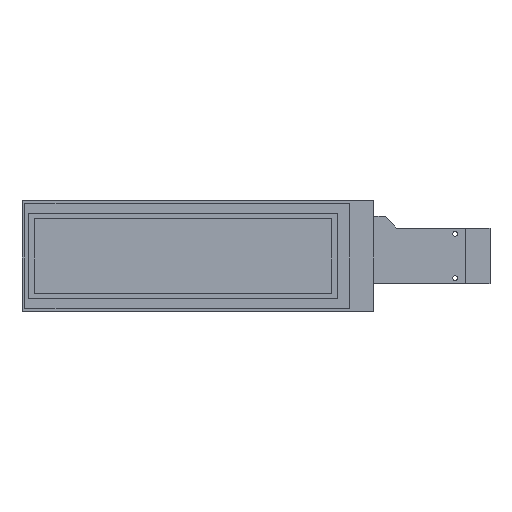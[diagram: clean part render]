
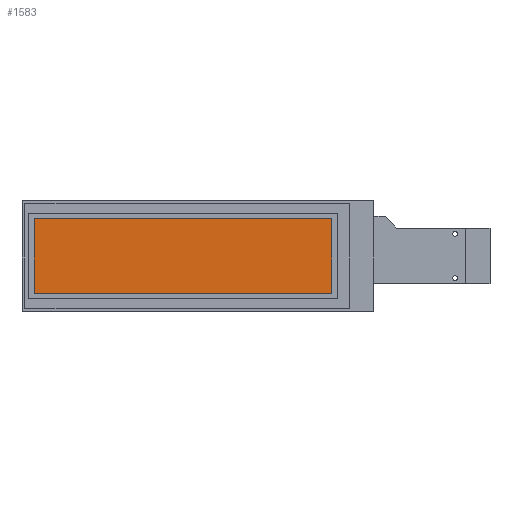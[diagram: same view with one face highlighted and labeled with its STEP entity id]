
A CAD part, top view. The second image highlights one B-rep face of the part: STEP entity #1583.
In plain terms, the highlighted planar face has unit normal (0, 0, 1).
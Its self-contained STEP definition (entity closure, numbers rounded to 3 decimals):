
#85 = CARTESIAN_POINT ( 'NONE',  ( 0., 0., 1.61 ) ) ;
#952 = VECTOR ( 'NONE', #18530, 1000. ) ;
#1240 = PLANE ( 'NONE',  #17011 ) ;
#1456 = EDGE_CURVE ( 'NONE', #3965, #18907, #16278, .T. ) ;
#1583 = ADVANCED_FACE ( 'NONE', ( #4318 ), #1240, .T. ) ;
#2290 = EDGE_CURVE ( 'NONE', #15146, #3965, #12694, .T. ) ;
#2398 = DIRECTION ( 'NONE',  ( 1., 0., 0. ) ) ;
#3469 = ORIENTED_EDGE ( 'NONE', *, *, #9812, .F. ) ;
#3867 = VECTOR ( 'NONE', #6613, 1000. ) ;
#3965 = VERTEX_POINT ( 'NONE', #16791 ) ;
#4318 = FACE_OUTER_BOUND ( 'NONE', #18008, .T. ) ;
#4349 = LINE ( 'NONE', #18533, #3867 ) ;
#4476 = DIRECTION ( 'NONE',  ( 1., 0., 0. ) ) ;
#5860 = CARTESIAN_POINT ( 'NONE',  ( 0., 6.39, 1.61 ) ) ;
#6613 = DIRECTION ( 'NONE',  ( 0., 1., 0. ) ) ;
#7167 = CARTESIAN_POINT ( 'NONE',  ( -25.59, 6.39, 1.61 ) ) ;
#8361 = CARTESIAN_POINT ( 'NONE',  ( 25.59, 0., 1.61 ) ) ;
#8648 = LINE ( 'NONE', #11044, #952 ) ;
#8687 = ORIENTED_EDGE ( 'NONE', *, *, #16038, .F. ) ;
#9812 = EDGE_CURVE ( 'NONE', #11469, #15146, #4349, .T. ) ;
#10071 = ORIENTED_EDGE ( 'NONE', *, *, #1456, .F. ) ;
#11044 = CARTESIAN_POINT ( 'NONE',  ( 0., -6.39, 1.61 ) ) ;
#11332 = DIRECTION ( 'NONE',  ( 0., -1., 0. ) ) ;
#11469 = VERTEX_POINT ( 'NONE', #19146 ) ;
#11535 = VECTOR ( 'NONE', #2398, 1000. ) ;
#12694 = LINE ( 'NONE', #5860, #11535 ) ;
#13042 = VECTOR ( 'NONE', #11332, 1000. ) ;
#14953 = CARTESIAN_POINT ( 'NONE',  ( 25.59, -6.39, 1.61 ) ) ;
#14975 = DIRECTION ( 'NONE',  ( 0., 0., 1. ) ) ;
#15146 = VERTEX_POINT ( 'NONE', #7167 ) ;
#16038 = EDGE_CURVE ( 'NONE', #18907, #11469, #8648, .T. ) ;
#16278 = LINE ( 'NONE', #8361, #13042 ) ;
#16791 = CARTESIAN_POINT ( 'NONE',  ( 25.59, 6.39, 1.61 ) ) ;
#17011 = AXIS2_PLACEMENT_3D ( 'NONE', #85, #14975, #4476 ) ;
#17896 = ORIENTED_EDGE ( 'NONE', *, *, #2290, .F. ) ;
#18008 = EDGE_LOOP ( 'NONE', ( #3469, #8687, #10071, #17896 ) ) ;
#18530 = DIRECTION ( 'NONE',  ( -1., 0., 0. ) ) ;
#18533 = CARTESIAN_POINT ( 'NONE',  ( -25.59, 0., 1.61 ) ) ;
#18907 = VERTEX_POINT ( 'NONE', #14953 ) ;
#19146 = CARTESIAN_POINT ( 'NONE',  ( -25.59, -6.39, 1.61 ) ) ;
